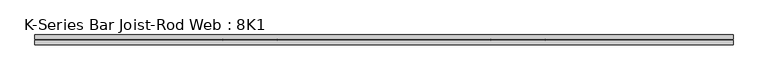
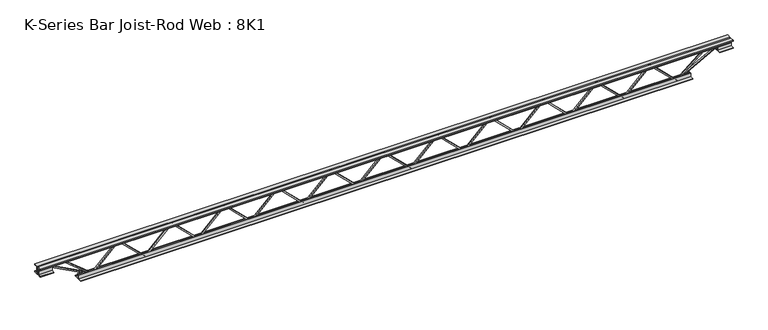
"""IFC4 building model written with IfcOpenShell, lengths in millimetres: beam geometry, K-Series Bar Joist-Rod Web : 8K1."""

from ifc_helpers import new_model, si_unit, frame, origin, place, context, project, spatial, polyline, outline, extrude, source, transform, mapped, element, save


def k_series_bar_joist_rod_web_8k1_3393dd89(model_context):
    return source(origin(), model_context, "Body", "SweptSolid", [
        extrude(outline(polyline([(-90.4875, 1404.3922228), (-100.0125, 1404.3922228), (-100.0125, 1409.5125828), (90.4875, 1603.7900432), (90.4875, 1606.2493231), (-100.0125, 1800.5267835), (-100.0125, 1805.6471436), (-90.4875, 1805.6471436), (-90.4875, 1804.4175036), (100.0125, 1610.1400432), (100.0125, 1599.8993231), (-90.4875, 1405.6218627), (-90.4875, 1404.3922228)])), frame((0.0, -4.7625, 0.0), z_axis=(0.0, 1.0, 0.0), x_axis=(0.0, 0.0, 1.0)), (0.0, 0.0, 1.0), 9.525),
        extrude(outline(polyline([(-90.4875, 1003.137302), (-100.0125, 1003.137302), (-100.0125, 1008.257662), (90.4875, 1202.5351224), (90.4875, 1204.9944023), (-100.0125, 1399.2718627), (-100.0125, 1404.3922228), (-90.4875, 1404.3922228), (-90.4875, 1403.1625828), (100.0125, 1208.8851224), (100.0125, 1198.6444023), (-90.4875, 1004.3669419), (-90.4875, 1003.137302)])), frame((0.0, -4.7625, 0.0), z_axis=(0.0, 1.0, 0.0), x_axis=(0.0, 0.0, 1.0)), (0.0, 0.0, 1.0), 9.525),
        extrude(outline(polyline([(-90.4875, 601.8823812), (-100.0125, 601.8823812), (-100.0125, 607.0027412), (90.4875, 801.2802016), (90.4875, 803.7394815), (-100.0125, 998.0169419), (-100.0125, 1003.137302), (-90.4875, 1003.137302), (-90.4875, 1001.907662), (100.0125, 807.6302016), (100.0125, 797.3894815), (-90.4875, 603.1120211), (-90.4875, 601.8823812)])), frame((0.0, -4.7625, 0.0), z_axis=(0.0, 1.0, 0.0), x_axis=(0.0, 0.0, 1.0)), (0.0, 0.0, 1.0), 9.525),
        extrude(outline(polyline([(-90.4875, 200.6274604), (-100.0125, 200.6274604), (-100.0125, 205.7478205), (90.4875, 400.0252809), (90.4875, 402.4845607), (-100.0125, 596.7620211), (-100.0125, 601.8823812), (-90.4875, 601.8823812), (-90.4875, 600.6527412), (100.0125, 406.3752809), (100.0125, 396.1345607), (-90.4875, 201.8571003), (-90.4875, 200.6274604)])), frame((0.0, -4.7625, 0.0), z_axis=(0.0, 1.0, 0.0), x_axis=(0.0, 0.0, 1.0)), (0.0, 0.0, 1.0), 9.525),
        extrude(outline(polyline([(-90.4875, -200.6274604), (-100.0125, -200.6274604), (-100.0125, -195.5071003), (90.4875, -1.2296399), (90.4875, 1.2296399), (-100.0125, 195.5071003), (-100.0125, 200.6274604), (-90.4875, 200.6274604), (-90.4875, 199.3978205), (100.0125, 5.1203601), (100.0125, -5.1203601), (-90.4875, -199.3978205), (-90.4875, -200.6274604)])), frame((0.0, -4.7625, 0.0), z_axis=(0.0, 1.0, 0.0), x_axis=(0.0, 0.0, 1.0)), (0.0, 0.0, 1.0), 9.525),
        extrude(outline(polyline([(-90.4875, -601.8823812), (-100.0125, -601.8823812), (-100.0125, -596.7620211), (90.4875, -402.4845607), (90.4875, -400.0252809), (-100.0125, -205.7478205), (-100.0125, -200.6274604), (-90.4875, -200.6274604), (-90.4875, -201.8571003), (100.0125, -396.1345607), (100.0125, -406.3752809), (-90.4875, -600.6527412), (-90.4875, -601.8823812)])), frame((0.0, -4.7625, 0.0), z_axis=(0.0, 1.0, 0.0), x_axis=(0.0, 0.0, 1.0)), (0.0, 0.0, 1.0), 9.525),
        extrude(outline(polyline([(-90.4875, -1003.137302), (-100.0125, -1003.137302), (-100.0125, -998.0169419), (90.4875, -803.7394815), (90.4875, -801.2802016), (-100.0125, -607.0027412), (-100.0125, -601.8823812), (-90.4875, -601.8823812), (-90.4875, -603.1120211), (100.0125, -797.3894815), (100.0125, -807.6302016), (-90.4875, -1001.907662), (-90.4875, -1003.137302)])), frame((0.0, -4.7625, 0.0), z_axis=(0.0, 1.0, 0.0), x_axis=(0.0, 0.0, 1.0)), (0.0, 0.0, 1.0), 9.525),
        extrude(outline(polyline([(-90.4875, -1404.3922228), (-100.0125, -1404.3922228), (-100.0125, -1399.2718627), (90.4875, -1204.9944023), (90.4875, -1202.5351224), (-100.0125, -1008.257662), (-100.0125, -1003.137302), (-90.4875, -1003.137302), (-90.4875, -1004.3669419), (100.0125, -1198.6444023), (100.0125, -1208.8851224), (-90.4875, -1403.1625828), (-90.4875, -1404.3922228)])), frame((0.0, -4.7625, 0.0), z_axis=(0.0, 1.0, 0.0), x_axis=(0.0, 0.0, 1.0)), (0.0, 0.0, 1.0), 9.525),
        extrude(outline(polyline([(-90.4875, -1805.6471436), (-100.0125, -1805.6471436), (-100.0125, -1800.5267835), (90.4875, -1606.2493231), (90.4875, -1603.7900432), (-100.0125, -1409.5125828), (-100.0125, -1404.3922228), (-90.4875, -1404.3922228), (-90.4875, -1405.6218627), (100.0125, -1599.8993231), (100.0125, -1610.1400432), (-90.4875, -1804.4175036), (-90.4875, -1805.6471436)])), frame((0.0, -4.7625, 0.0), z_axis=(0.0, 1.0, 0.0), x_axis=(0.0, 0.0, 1.0)), (0.0, 0.0, 1.0), 9.525),
        extrude(outline(polyline([(-90.4875, 1805.6471436), (-100.0125, 1805.6471436), (-100.0125, 1810.7675036), (90.4875, 2005.044964), (90.4875, 2007.5042439), (-100.0125, 2201.7817043), (-100.0125, 2206.9020644), (-90.4875, 2206.9020644), (-90.4875, 2205.6724244), (100.0125, 2011.394964), (100.0125, 2001.1542439), (-90.4875, 1806.8767835), (-90.4875, 1805.6471436)])), frame((0.0, -4.7625, 0.0), z_axis=(0.0, 1.0, 0.0), x_axis=(0.0, 0.0, 1.0)), (0.0, 0.0, 1.0), 9.525),
        extrude(outline(polyline([(-90.4875, -2206.9020644), (-100.0125, -2206.9020644), (-100.0125, -2201.7817043), (90.4875, -2007.5042439), (90.4875, -2005.044964), (-100.0125, -1810.7675036), (-100.0125, -1805.6471436), (-90.4875, -1805.6471436), (-90.4875, -1806.8767835), (100.0125, -2001.1542439), (100.0125, -2011.394964), (-90.4875, -2205.6724244), (-90.4875, -2206.9020644)])), frame((0.0, -4.7625, 0.0), z_axis=(0.0, 1.0, 0.0), x_axis=(0.0, 0.0, 1.0)), (0.0, 0.0, 1.0), 9.525),
        extrude(outline(polyline([(4.7625, 101.6), (36.5125, 101.6), (36.5125, 95.25), (11.1125, 95.25), (11.1125, 69.85), (4.7625, 69.85), (4.7625, 101.6)])), frame((-2613.3020644, 0.0, 0.0), z_axis=(1.0, 0.0, 0.0), x_axis=(0.0, 1.0, 0.0)), (0.0, 0.0, 1.0), 5226.6041288),
        extrude(outline(polyline([(-4.7625, 101.6), (-4.7625, 69.85), (-11.1125, 69.85), (-11.1125, 95.25), (-36.5125, 95.25), (-36.5125, 101.6), (-4.7625, 101.6)])), frame((-2613.3020644, 0.0, 0.0), z_axis=(1.0, 0.0, 0.0), x_axis=(0.0, 1.0, 0.0)), (0.0, 0.0, 1.0), 5226.6041288),
        extrude(outline(polyline([(-4.7625, 38.1), (-36.5125, 38.1), (-36.5125, 44.45), (-11.1125, 44.45), (-11.1125, 69.85), (-4.7625, 69.85), (-4.7625, 38.1)])), frame((-2613.3020644, 0.0, 0.0), z_axis=(1.0, 0.0, 0.0), x_axis=(0.0, 1.0, 0.0)), (0.0, 0.0, 1.0), 101.6),
        extrude(outline(polyline([(36.5125, 38.1), (4.7625, 38.1), (4.7625, 69.85), (11.1125, 69.85), (11.1125, 44.45), (36.5125, 44.45), (36.5125, 38.1)])), frame((-2613.3020644, 0.0, 0.0), z_axis=(1.0, 0.0, 0.0), x_axis=(0.0, 1.0, 0.0)), (0.0, 0.0, 1.0), 101.6),
        extrude(outline(polyline([(4.7625, 38.1), (4.7625, 69.85), (11.1125, 69.85), (11.1125, 44.45), (36.5125, 44.45), (36.5125, 38.1), (4.7625, 38.1)])), frame((2511.7020644, 0.0, 0.0), z_axis=(1.0, 0.0, 0.0), x_axis=(0.0, 1.0, 0.0)), (0.0, 0.0, 1.0), 101.6),
        extrude(outline(polyline([(-4.7625, 38.1), (-36.5125, 38.1), (-36.5125, 44.45), (-11.1125, 44.45), (-11.1125, 69.85), (-4.7625, 69.85), (-4.7625, 38.1)])), frame((2511.7020644, 0.0, 0.0), z_axis=(1.0, 0.0, 0.0), x_axis=(0.0, 1.0, 0.0)), (0.0, 0.0, 1.0), 101.6),
        extrude(outline(polyline([(4.7625, -101.6), (4.7625, -69.85), (11.1125, -69.85), (11.1125, -95.25), (36.5125, -95.25), (36.5125, -101.6), (4.7625, -101.6)])), frame((-2308.5020644, 0.0, 0.0), z_axis=(1.0, 0.0, 0.0), x_axis=(0.0, 1.0, 0.0)), (0.0, 0.0, 1.0), 4617.0041288),
        extrude(outline(polyline([(-4.7625, -101.6), (-36.5125, -101.6), (-36.5125, -95.25), (-11.1125, -95.25), (-11.1125, -69.85), (-4.7625, -69.85), (-4.7625, -101.6)])), frame((-2308.5020644, 0.0, 0.0), z_axis=(1.0, 0.0, 0.0), x_axis=(0.0, 1.0, 0.0)), (0.0, 0.0, 1.0), 4617.0041288),
        extrude(outline(polyline([(0.0, -9.525), (0.0, 0.0), (346.6425392, 0.0), (346.6425392, -9.525), (0.0, -9.525)])), frame((-2513.9703629, 4.7625, 65.662372), z_axis=(0.47628314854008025, 0.0, 0.8792919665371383), x_axis=(0.8792919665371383, 0.0, -0.47628314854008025)), (0.0, 0.0, 1.0), 9.525),
        extrude(outline(polyline([(0.0, -9.525), (0.0, 0.0), (259.8256875, 0.0), (259.8256875, -9.525), (0.0, -9.525)])), frame((-2410.5557412, 4.7625, 66.1725796), z_axis=(0.635426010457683, 0.0, 0.7721617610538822), x_axis=(0.7721617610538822, 0.0, -0.635426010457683)), (0.0, 0.0, 1.0), 9.525),
        extrude(outline(polyline([(0.0, -9.525), (0.0, 0.0), (346.6425392, 0.0), (346.6425392, -9.525), (0.0, -9.525)])), frame((2513.9703629, -4.7625, 65.662372), z_axis=(-0.4762831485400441, 0.0, 0.8792919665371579), x_axis=(-0.8792919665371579, 0.0, -0.4762831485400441)), (0.0, 0.0, 1.0), 9.525),
        extrude(outline(polyline([(0.0, -9.525), (0.0, 0.0), (259.8256875, 0.0), (259.8256875, -9.525), (0.0, -9.525)])), frame((2410.5557412, -4.7625, 66.1725796), z_axis=(-0.6354260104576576, 0.0, 0.772161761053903), x_axis=(-0.772161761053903, 0.0, -0.6354260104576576)), (0.0, 0.0, 1.0), 9.525),
    ])


if __name__ == "__main__":
    model = new_model("IFC4")
    model_context = context("Model", 3, world=origin())
    ifc_project = project(units=[si_unit("LENGTHUNIT", "METRE", prefix="MILLI")], contexts=[model_context])
    site = spatial("IfcSite", under=ifc_project)
    building = spatial("IfcBuilding", under=site)
    placement = place(None, origin())
    k_series_bar_joist_rod_web_8k1_shape = k_series_bar_joist_rod_web_8k1_3393dd89(model_context)
    element("IfcBeam", 1, ObjectType="K-Series Bar Joist-Rod Web : 8K1", at=placement, inside=building, context=model_context, shape_type="MappedRepresentation", body=[
        mapped(k_series_bar_joist_rod_web_8k1_shape, transform((0.0, 0.0, 0.0), x_axis=(1.0, 0.0, 0.0), y_axis=(0.0, 1.0, 0.0), z_axis=(0.0, 0.0, 1.0))),
    ])
    save(model, "model.ifc")
